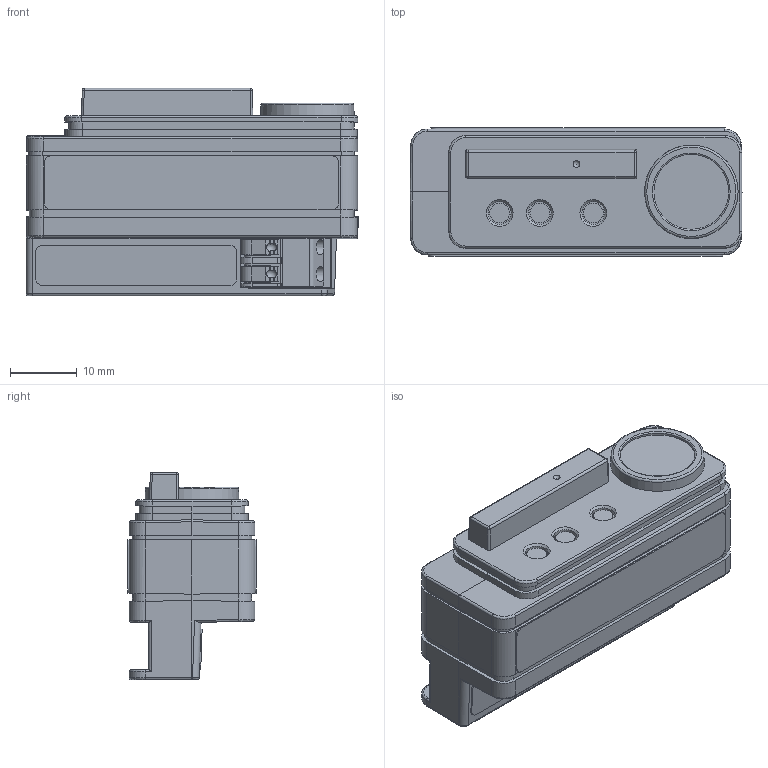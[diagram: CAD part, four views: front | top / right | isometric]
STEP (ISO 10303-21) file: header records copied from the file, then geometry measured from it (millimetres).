
FILE_DESCRIPTION(/* description */ (''),/* implementation_level */ '2;1');
FILE_NAME(/* name */ 'C:\Data\Vault\LE-TPD\9290 021 37000_SNS410\9290-021-37000 sh010 2020-09-07.stp',/* time_stamp */ '2020-09-07T10:52:28+02:00',/* author */ ('nly19266'),/* organization */ (''),/* preprocessor_version */ 'ST-DEVELOPER v16.5',/* originating_system */ 'Autodesk Inventor 2017',/* authorisation */ '');
FILE_SCHEMA (('CONFIG_CONTROL_DESIGN'));
Length unit declared in the file: millimetre
Products named in the file (1): 9290-021-37000 sh010
Bounding box: 49.63 x 19.2 x 31 mm (x, y, z)
Volume: 19694.9 mm3; surface area: 8544.7 mm2
Topology: 1 solids, 8 shells, 898 faces, 2474 edges, 1616 vertices
Faces by surface type: plane 637, cylinder 174, bspline 43, cone 31, sphere 8, torus 5
Full cylindrical faces by diameter (mm): 2.25 x2
Entity records: 31717 total; most frequent: CARTESIAN_POINT 8006, ORIENTED_EDGE 4838, DIRECTION 4528, EDGE_CURVE 2419, LINE 1906, VECTOR 1906, VERTEX_POINT 1594, AXIS2_PLACEMENT_3D 1311
